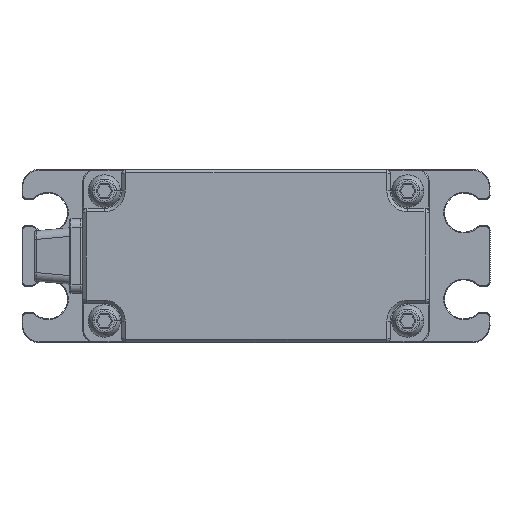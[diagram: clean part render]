
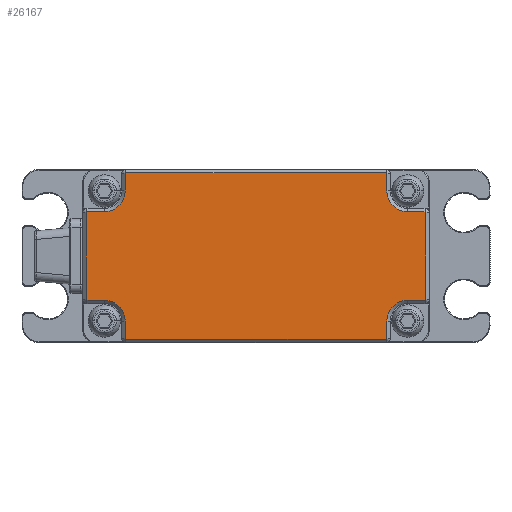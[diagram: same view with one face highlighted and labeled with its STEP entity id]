
A CAD part, front view. The second image highlights one B-rep face of the part: STEP entity #26167.
In plain terms, the highlighted planar face has unit normal (0, -1, 0).
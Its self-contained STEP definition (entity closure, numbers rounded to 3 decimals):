
#9243=DIRECTION('',(0.,0.,-1.));
#9244=VECTOR('',#9243,2.);
#9245=CARTESIAN_POINT('',(15.1,-27.3,
-7.5));
#9246=LINE('',#9245,#9244);
#9247=CARTESIAN_POINT('',(15.,-27.3,-9.5));
#9248=DIRECTION('',(0.,1.,0.));
#9249=DIRECTION('',(1.,0.,0.));
#9250=AXIS2_PLACEMENT_3D('',#9247,#9248,#9249);
#9252=DIRECTION('',(-1.,0.,0.));
#9253=VECTOR('',#9252,30.);
#9254=CARTESIAN_POINT('',(15.,-27.3,
-9.6));
#9255=LINE('',#9254,#9253);
#9256=CARTESIAN_POINT('',(-15.,-27.3,-9.5));
#9257=DIRECTION('',(0.,1.,0.));
#9258=DIRECTION('',(0.,0.,-1.));
#9259=AXIS2_PLACEMENT_3D('',#9256,#9257,#9258);
#9261=DIRECTION('',(0.,0.,1.));
#9262=VECTOR('',#9261,2.);
#9263=CARTESIAN_POINT('',(-15.1,-27.3,
-9.5));
#9264=LINE('',#9263,#9262);
#9265=CARTESIAN_POINT('',(-17.5,-27.3,-7.5));
#9266=DIRECTION('',(0.,-1.,0.));
#9267=DIRECTION('',(1.,0.,0.));
#9268=AXIS2_PLACEMENT_3D('',#9265,#9266,#9267);
#9270=DIRECTION('',(-1.,0.,0.));
#9271=VECTOR('',#9270,2.);
#9272=CARTESIAN_POINT('',(-17.5,-27.3,
-5.1));
#9273=LINE('',#9272,#9271);
#9274=CARTESIAN_POINT('',(-19.5,-27.3,-5.));
#9275=DIRECTION('',(0.,1.,0.));
#9276=DIRECTION('',(0.,0.,-1.));
#9277=AXIS2_PLACEMENT_3D('',#9274,#9275,#9276);
#9279=DIRECTION('',(0.,0.,1.));
#9280=VECTOR('',#9279,10.);
#9281=CARTESIAN_POINT('',(-19.6,-27.3,
-5.));
#9282=LINE('',#9281,#9280);
#9283=CARTESIAN_POINT('',(-19.5,-27.3,5.));
#9284=DIRECTION('',(0.,1.,0.));
#9285=DIRECTION('',(-1.,0.,0.));
#9286=AXIS2_PLACEMENT_3D('',#9283,#9284,#9285);
#9288=DIRECTION('',(1.,0.,0.));
#9289=VECTOR('',#9288,2.);
#9290=CARTESIAN_POINT('',(-19.5,-27.3,
5.1));
#9291=LINE('',#9290,#9289);
#9292=CARTESIAN_POINT('',(-17.5,-27.3,7.5));
#9293=DIRECTION('',(0.,-1.,0.));
#9294=DIRECTION('',(0.,0.,-1.));
#9295=AXIS2_PLACEMENT_3D('',#9292,#9293,#9294);
#9297=DIRECTION('',(0.,0.,1.));
#9298=VECTOR('',#9297,2.);
#9299=CARTESIAN_POINT('',(-15.1,-27.3,
7.5));
#9300=LINE('',#9299,#9298);
#9301=CARTESIAN_POINT('',(-15.,-27.3,9.5));
#9302=DIRECTION('',(0.,1.,0.));
#9303=DIRECTION('',(-1.,0.,0.));
#9304=AXIS2_PLACEMENT_3D('',#9301,#9302,#9303);
#9306=DIRECTION('',(1.,0.,0.));
#9307=VECTOR('',#9306,30.);
#9308=CARTESIAN_POINT('',(-15.,-27.3,
9.6));
#9309=LINE('',#9308,#9307);
#9310=CARTESIAN_POINT('',(15.,-27.3,9.5));
#9311=DIRECTION('',(0.,1.,0.));
#9312=DIRECTION('',(0.,0.,1.));
#9313=AXIS2_PLACEMENT_3D('',#9310,#9311,#9312);
#9315=DIRECTION('',(0.,0.,-1.));
#9316=VECTOR('',#9315,2.);
#9317=CARTESIAN_POINT('',(15.1,-27.3,9.5));
#9318=LINE('',#9317,#9316);
#9319=CARTESIAN_POINT('',(17.5,-27.3,7.5));
#9320=DIRECTION('',(0.,-1.,0.));
#9321=DIRECTION('',(-1.,0.,0.));
#9322=AXIS2_PLACEMENT_3D('',#9319,#9320,#9321);
#9324=DIRECTION('',(1.,0.,0.));
#9325=VECTOR('',#9324,2.);
#9326=CARTESIAN_POINT('',(17.5,-27.3,5.1));
#9327=LINE('',#9326,#9325);
#9328=CARTESIAN_POINT('',(19.5,-27.3,5.));
#9329=DIRECTION('',(0.,1.,0.));
#9330=DIRECTION('',(0.,0.,1.));
#9331=AXIS2_PLACEMENT_3D('',#9328,#9329,#9330);
#9333=DIRECTION('',(0.,0.,-1.));
#9334=VECTOR('',#9333,10.);
#9335=CARTESIAN_POINT('',(19.6,-27.3,5.));
#9336=LINE('',#9335,#9334);
#9337=CARTESIAN_POINT('',(19.5,-27.3,-5.));
#9338=DIRECTION('',(0.,1.,0.));
#9339=DIRECTION('',(1.,0.,0.));
#9340=AXIS2_PLACEMENT_3D('',#9337,#9338,#9339);
#9342=DIRECTION('',(-1.,0.,0.));
#9343=VECTOR('',#9342,2.);
#9344=CARTESIAN_POINT('',(19.5,-27.3,
-5.1));
#9345=LINE('',#9344,#9343);
#9346=CARTESIAN_POINT('',(17.5,-27.3,-7.5));
#9347=DIRECTION('',(0.,-1.,0.));
#9348=DIRECTION('',(0.,0.,1.));
#9349=AXIS2_PLACEMENT_3D('',#9346,#9347,#9348);
#12838=CARTESIAN_POINT('',(15.1,-27.3,
-7.5));
#12839=CARTESIAN_POINT('',(15.1,-27.3,
-9.5));
#12840=VERTEX_POINT('',#12838);
#12841=VERTEX_POINT('',#12839);
#12842=CARTESIAN_POINT('',(15.,-27.3,-9.6));
#12843=VERTEX_POINT('',#12842);
#12844=CARTESIAN_POINT('',(-15.,-27.3,
-9.6));
#12845=VERTEX_POINT('',#12844);
#12846=CARTESIAN_POINT('',(-15.1,-27.3,-9.5));
#12847=VERTEX_POINT('',#12846);
#12848=CARTESIAN_POINT('',(-15.1,-27.3,
-7.5));
#12849=VERTEX_POINT('',#12848);
#12850=CARTESIAN_POINT('',(-17.5,-27.3,-5.1));
#12851=VERTEX_POINT('',#12850);
#12852=CARTESIAN_POINT('',(-19.5,-27.3,
-5.1));
#12853=VERTEX_POINT('',#12852);
#12854=CARTESIAN_POINT('',(-19.6,-27.3,-5.));
#12855=VERTEX_POINT('',#12854);
#12856=CARTESIAN_POINT('',(-19.6,-27.3,
5.));
#12857=VERTEX_POINT('',#12856);
#12858=CARTESIAN_POINT('',(-19.5,-27.3,5.1));
#12859=VERTEX_POINT('',#12858);
#12860=CARTESIAN_POINT('',(-17.5,-27.3,
5.1));
#12861=VERTEX_POINT('',#12860);
#12862=CARTESIAN_POINT('',(-15.1,-27.3,7.5));
#12863=VERTEX_POINT('',#12862);
#12864=CARTESIAN_POINT('',(-15.1,-27.3,
9.5));
#12865=VERTEX_POINT('',#12864);
#12866=CARTESIAN_POINT('',(-15.,-27.3,9.6));
#12867=VERTEX_POINT('',#12866);
#12868=CARTESIAN_POINT('',(15.,-27.3,
9.6));
#12869=VERTEX_POINT('',#12868);
#12870=CARTESIAN_POINT('',(15.1,-27.3,9.5));
#12871=VERTEX_POINT('',#12870);
#12872=CARTESIAN_POINT('',(15.1,-27.3,
7.5));
#12873=VERTEX_POINT('',#12872);
#12874=CARTESIAN_POINT('',(17.5,-27.3,5.1));
#12875=VERTEX_POINT('',#12874);
#12876=CARTESIAN_POINT('',(19.5,-27.3,
5.1));
#12877=VERTEX_POINT('',#12876);
#12878=CARTESIAN_POINT('',(19.6,-27.3,5.));
#12879=VERTEX_POINT('',#12878);
#12880=CARTESIAN_POINT('',(19.6,-27.3,
-5.));
#12881=VERTEX_POINT('',#12880);
#12882=CARTESIAN_POINT('',(19.5,-27.3,-5.1));
#12883=VERTEX_POINT('',#12882);
#12884=CARTESIAN_POINT('',(17.5,-27.3,
-5.1));
#12885=VERTEX_POINT('',#12884);
#26113=CARTESIAN_POINT('',(0.,-27.3,0.));
#26114=DIRECTION('',(0.,1.,0.));
#26115=DIRECTION('',(1.,0.,0.));
#26116=AXIS2_PLACEMENT_3D('',#26113,#26114,#26115);
#26117=PLANE('',#26116);
#26119=ORIENTED_EDGE('',*,*,#26118,.T.);
#26121=ORIENTED_EDGE('',*,*,#26120,.T.);
#26123=ORIENTED_EDGE('',*,*,#26122,.T.);
#26125=ORIENTED_EDGE('',*,*,#26124,.T.);
#26127=ORIENTED_EDGE('',*,*,#26126,.T.);
#26129=ORIENTED_EDGE('',*,*,#26128,.T.);
#26131=ORIENTED_EDGE('',*,*,#26130,.T.);
#26133=ORIENTED_EDGE('',*,*,#26132,.T.);
#26135=ORIENTED_EDGE('',*,*,#26134,.T.);
#26137=ORIENTED_EDGE('',*,*,#26136,.T.);
#26138=ORIENTED_EDGE('',*,*,#26103,.T.);
#26140=ORIENTED_EDGE('',*,*,#26139,.T.);
#26142=ORIENTED_EDGE('',*,*,#26141,.T.);
#26144=ORIENTED_EDGE('',*,*,#26143,.T.);
#26146=ORIENTED_EDGE('',*,*,#26145,.T.);
#26148=ORIENTED_EDGE('',*,*,#26147,.T.);
#26150=ORIENTED_EDGE('',*,*,#26149,.T.);
#26152=ORIENTED_EDGE('',*,*,#26151,.T.);
#26154=ORIENTED_EDGE('',*,*,#26153,.T.);
#26156=ORIENTED_EDGE('',*,*,#26155,.T.);
#26158=ORIENTED_EDGE('',*,*,#26157,.T.);
#26160=ORIENTED_EDGE('',*,*,#26159,.T.);
#26162=ORIENTED_EDGE('',*,*,#26161,.T.);
#26164=ORIENTED_EDGE('',*,*,#26163,.T.);
#26165=EDGE_LOOP('',(#26119,#26121,#26123,#26125,#26127,#26129,#26131,#26133,
#26135,#26137,#26138,#26140,#26142,#26144,#26146,#26148,#26150,#26152,#26154,
#26156,#26158,#26160,#26162,#26164));
#26166=FACE_OUTER_BOUND('',#26165,.F.);
#9251=CIRCLE('',#9250,0.1);
#9260=CIRCLE('',#9259,0.1);
#9269=CIRCLE('',#9268,2.4);
#9278=CIRCLE('',#9277,0.1);
#9287=CIRCLE('',#9286,0.1);
#9296=CIRCLE('',#9295,2.4);
#9305=CIRCLE('',#9304,0.1);
#9314=CIRCLE('',#9313,0.1);
#9323=CIRCLE('',#9322,2.4);
#9332=CIRCLE('',#9331,0.1);
#9341=CIRCLE('',#9340,0.1);
#9350=CIRCLE('',#9349,2.4);
#26103=EDGE_CURVE('',#12859,#12861,#9291,.T.);
#26118=EDGE_CURVE('',#12840,#12841,#9246,.T.);
#26120=EDGE_CURVE('',#12841,#12843,#9251,.T.);
#26122=EDGE_CURVE('',#12843,#12845,#9255,.T.);
#26124=EDGE_CURVE('',#12845,#12847,#9260,.T.);
#26126=EDGE_CURVE('',#12847,#12849,#9264,.T.);
#26128=EDGE_CURVE('',#12849,#12851,#9269,.T.);
#26130=EDGE_CURVE('',#12851,#12853,#9273,.T.);
#26132=EDGE_CURVE('',#12853,#12855,#9278,.T.);
#26134=EDGE_CURVE('',#12855,#12857,#9282,.T.);
#26136=EDGE_CURVE('',#12857,#12859,#9287,.T.);
#26139=EDGE_CURVE('',#12861,#12863,#9296,.T.);
#26141=EDGE_CURVE('',#12863,#12865,#9300,.T.);
#26143=EDGE_CURVE('',#12865,#12867,#9305,.T.);
#26145=EDGE_CURVE('',#12867,#12869,#9309,.T.);
#26147=EDGE_CURVE('',#12869,#12871,#9314,.T.);
#26149=EDGE_CURVE('',#12871,#12873,#9318,.T.);
#26151=EDGE_CURVE('',#12873,#12875,#9323,.T.);
#26153=EDGE_CURVE('',#12875,#12877,#9327,.T.);
#26155=EDGE_CURVE('',#12877,#12879,#9332,.T.);
#26157=EDGE_CURVE('',#12879,#12881,#9336,.T.);
#26159=EDGE_CURVE('',#12881,#12883,#9341,.T.);
#26161=EDGE_CURVE('',#12883,#12885,#9345,.T.);
#26163=EDGE_CURVE('',#12885,#12840,#9350,.T.);
#26167=ADVANCED_FACE('',(#26166),#26117,.F.);
